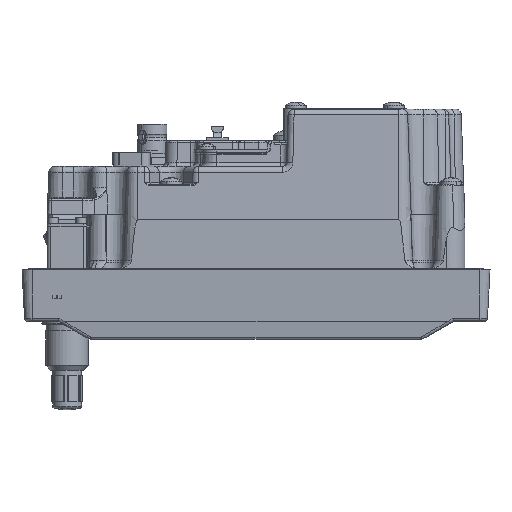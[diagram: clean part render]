
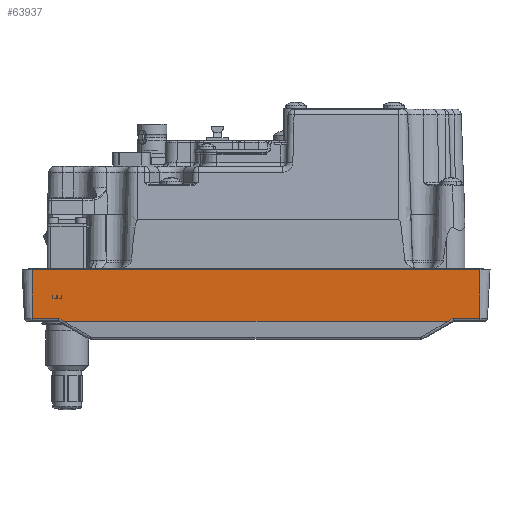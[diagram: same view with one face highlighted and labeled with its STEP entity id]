
A CAD part, front view. The second image highlights one B-rep face of the part: STEP entity #63937.
In plain terms, the highlighted planar face has unit normal (0, -0.999, -0.052).
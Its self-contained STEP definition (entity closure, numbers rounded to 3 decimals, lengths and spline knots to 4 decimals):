
#471 = ORIENTED_EDGE ( 'NONE', *, *, #50775, .F. ) ;
#3664 = CARTESIAN_POINT ( 'NONE',  ( -2.871, -3.8773, -0.6327 ) ) ;
#4687 = ORIENTED_EDGE ( 'NONE', *, *, #123657, .T. ) ;
#8095 = LINE ( 'NONE', #70539, #35695 ) ;
#8265 = ORIENTED_EDGE ( 'NONE', *, *, #191332, .T. ) ;
#12951 = ORIENTED_EDGE ( 'NONE', *, *, #144545, .T. ) ;
#15169 = CARTESIAN_POINT ( 'NONE',  ( -2.529, -3.8773, -0.6327 ) ) ;
#19584 = VERTEX_POINT ( 'NONE', #158588 ) ;
#21089 = VERTEX_POINT ( 'NONE', #103591 ) ;
#24629 = CARTESIAN_POINT ( 'NONE',  ( 0.9038, -3.8282, -1.571 ) ) ;
#32886 = VERTEX_POINT ( 'NONE', #199282 ) ;
#35463 = CARTESIAN_POINT ( 'NONE',  ( 2.871, -3.91, -0.0098 ) ) ;
#35695 = VECTOR ( 'NONE', #73573, 39.3701 ) ;
#37466 = DIRECTION ( 'NONE',  ( 0., -0.052, 0.999 ) ) ;
#50405 = CARTESIAN_POINT ( 'NONE',  ( -2.871, -3.91, -0.0098 ) ) ;
#50775 = EDGE_CURVE ( 'NONE', #32886, #21089, #131042, .T. ) ;
#51112 = VECTOR ( 'NONE', #51189, 39.3701 ) ;
#51189 = DIRECTION ( 'NONE',  ( -1., 0., 0. ) ) ;
#56090 = EDGE_CURVE ( 'NONE', #79538, #194080, #181675, .T. ) ;
#59375 = EDGE_CURVE ( 'NONE', #19584, #82119, #107830, .T. ) ;
#62111 = DIRECTION ( 'NONE',  ( 0., -0.999, -0.052 ) ) ;
#63434 = ORIENTED_EDGE ( 'NONE', *, *, #68130, .T. ) ;
#63937 = ADVANCED_FACE ( 'NONE', ( #169647 ), #172702, .T. ) ;
#68130 = EDGE_CURVE ( 'NONE', #82119, #137727, #169754, .T. ) ;
#70539 = CARTESIAN_POINT ( 'NONE',  ( -0.9038, -3.8282, -1.571 ) ) ;
#72739 = LINE ( 'NONE', #24629, #198150 ) ;
#73573 = DIRECTION ( 'NONE',  ( 0.866, 0.026, -0.5 ) ) ;
#73695 = ORIENTED_EDGE ( 'NONE', *, *, #192231, .T. ) ;
#76537 = CARTESIAN_POINT ( 'NONE',  ( 0., -3.8773, -0.6327 ) ) ;
#77974 = ORIENTED_EDGE ( 'NONE', *, *, #56090, .T. ) ;
#78827 = DIRECTION ( 'NONE',  ( -1., 0., 0. ) ) ;
#79538 = VERTEX_POINT ( 'NONE', #158538 ) ;
#79954 = VECTOR ( 'NONE', #124689, 39.3701 ) ;
#82119 = VERTEX_POINT ( 'NONE', #3664 ) ;
#84605 = VECTOR ( 'NONE', #192229, 39.3701 ) ;
#87118 = DIRECTION ( 'NONE',  ( 0.866, -0.026, 0.5 ) ) ;
#102058 = VERTEX_POINT ( 'NONE', #120172 ) ;
#103591 = CARTESIAN_POINT ( 'NONE',  ( -2.4657, -3.8754, -0.6693 ) ) ;
#103789 = CARTESIAN_POINT ( 'NONE',  ( 0., -3.8773, -0.6327 ) ) ;
#107830 = LINE ( 'NONE', #50405, #134142 ) ;
#112580 = VECTOR ( 'NONE', #37466, 39.3701 ) ;
#120172 = CARTESIAN_POINT ( 'NONE',  ( 2.871, -3.91, -0.0098 ) ) ;
#121339 = VECTOR ( 'NONE', #78827, 39.3701 ) ;
#123574 = DIRECTION ( 'NONE',  ( 0., 0.052, -0.999 ) ) ;
#123657 = EDGE_CURVE ( 'NONE', #194080, #102058, #177798, .T. ) ;
#124689 = DIRECTION ( 'NONE',  ( 1., 0., 0. ) ) ;
#131042 = LINE ( 'NONE', #145422, #51112 ) ;
#134142 = VECTOR ( 'NONE', #194749, 39.3701 ) ;
#137727 = VERTEX_POINT ( 'NONE', #15169 ) ;
#140265 = LINE ( 'NONE', #202708, #121339 ) ;
#144420 = EDGE_LOOP ( 'NONE', ( #8265, #77974, #4687, #73695, #198161, #63434, #12951, #471 ) ) ;
#144545 = EDGE_CURVE ( 'NONE', #137727, #21089, #8095, .T. ) ;
#145422 = CARTESIAN_POINT ( 'NONE',  ( 1.9, -3.8754, -0.6693 ) ) ;
#151166 = AXIS2_PLACEMENT_3D ( 'NONE', #201375, #62111, #123574 ) ;
#158538 = CARTESIAN_POINT ( 'NONE',  ( 2.529, -3.8773, -0.6327 ) ) ;
#158588 = CARTESIAN_POINT ( 'NONE',  ( -2.871, -3.91, -0.0098 ) ) ;
#169234 = CARTESIAN_POINT ( 'NONE',  ( 2.871, -3.8773, -0.6327 ) ) ;
#169647 = FACE_OUTER_BOUND ( 'NONE', #144420, .T. ) ;
#169754 = LINE ( 'NONE', #76537, #79954 ) ;
#172702 = PLANE ( 'NONE',  #151166 ) ;
#177798 = LINE ( 'NONE', #35463, #112580 ) ;
#181675 = LINE ( 'NONE', #103789, #84605 ) ;
#191332 = EDGE_CURVE ( 'NONE', #32886, #79538, #72739, .T. ) ;
#192229 = DIRECTION ( 'NONE',  ( 1., 0., 0. ) ) ;
#192231 = EDGE_CURVE ( 'NONE', #102058, #19584, #140265, .T. ) ;
#194080 = VERTEX_POINT ( 'NONE', #169234 ) ;
#194749 = DIRECTION ( 'NONE',  ( 0., 0.052, -0.999 ) ) ;
#198150 = VECTOR ( 'NONE', #87118, 39.3701 ) ;
#198161 = ORIENTED_EDGE ( 'NONE', *, *, #59375, .T. ) ;
#199282 = CARTESIAN_POINT ( 'NONE',  ( 2.4657, -3.8754, -0.6693 ) ) ;
#201375 = CARTESIAN_POINT ( 'NONE',  ( 0., -3.91, -0.0098 ) ) ;
#202708 = CARTESIAN_POINT ( 'NONE',  ( 0., -3.91, -0.0098 ) ) ;
